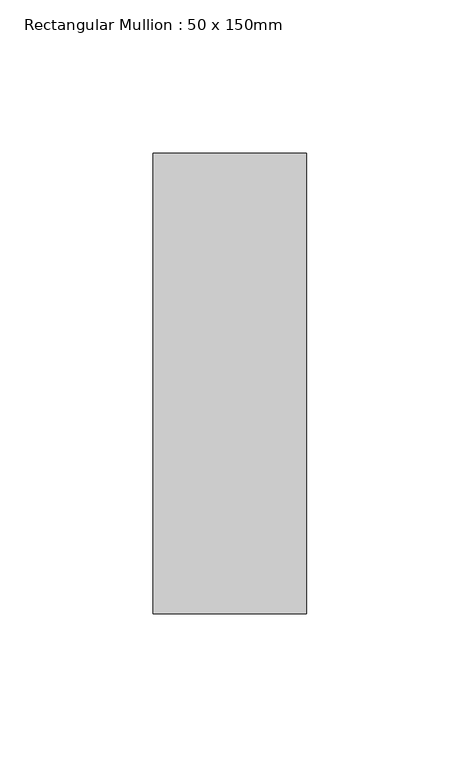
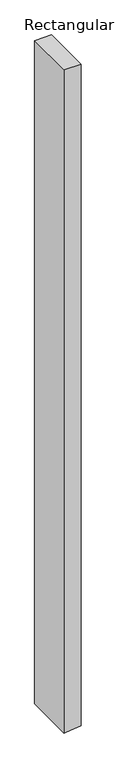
"""IFC4 building model written with IfcOpenShell, lengths in millimetres: member geometry, Rectangular Mullion : 50 x 150mm."""

from ifc_helpers import new_model, si_unit, frame, origin, place, context, project, spatial, polyline, outline, extrude, source, transform, mapped, element, save


def rectangular_mullion_50_x_150mm_42c5941d(model_context):
    return source(origin(), model_context, "Body", "SweptSolid", [
        extrude(outline(polyline([(0.0, 25.0), (0.0, -25.0), (-2072.6802407, -25.0), (-2070.6694736, -5.0022633), (-2067.652754, 25.0), (0.0, 25.0)])), frame((0.0, -75.0, 0.0), z_axis=(0.0, 1.0, 0.0), x_axis=(0.0, 0.0, 1.0)), (0.0, 0.0, 1.0), 150.0),
    ])


if __name__ == "__main__":
    model = new_model("IFC4")
    model_context = context("Model", 3, world=origin())
    ifc_project = project(units=[si_unit("LENGTHUNIT", "METRE", prefix="MILLI")], contexts=[model_context])
    site = spatial("IfcSite", under=ifc_project)
    building = spatial("IfcBuilding", under=site)
    placement = place(None, origin())
    rectangular_mullion_50_x_150mm_shape = rectangular_mullion_50_x_150mm_42c5941d(model_context)
    element("IfcMember", 1, ObjectType="Rectangular Mullion : 50 x 150mm", at=placement, inside=building, context=model_context, shape_type="MappedRepresentation", body=[
        mapped(rectangular_mullion_50_x_150mm_shape, transform((0.0, 0.0, 0.0), x_axis=(1.0, 0.0, 0.0), y_axis=(0.0, 1.0, 0.0), z_axis=(0.0, 0.0, 1.0))),
    ])
    save(model, "model.ifc")
